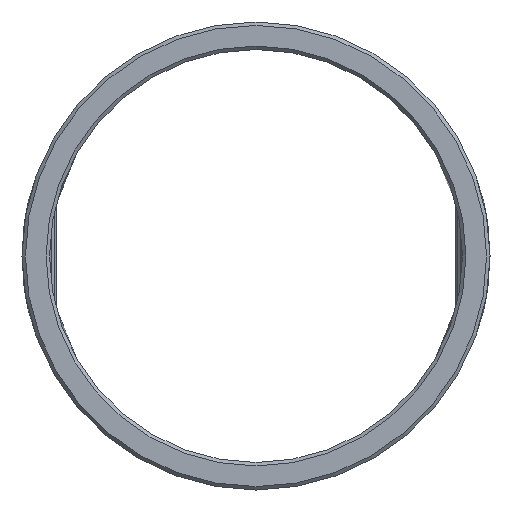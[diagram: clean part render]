
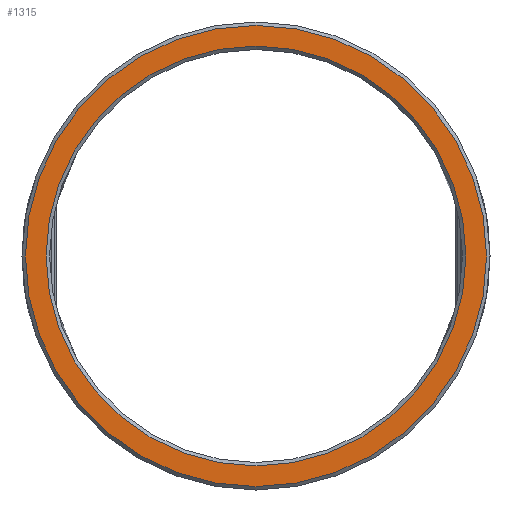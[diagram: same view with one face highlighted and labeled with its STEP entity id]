
A CAD part, left-side view. The second image highlights one B-rep face of the part: STEP entity #1315.
In plain terms, the highlighted planar face has unit normal (-1, 0, 0).
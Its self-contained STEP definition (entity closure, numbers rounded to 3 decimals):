
#1284=CARTESIAN_POINT('',(-10.875,6.1,0.));
#1285=VERTEX_POINT('',#1284);
#1286=CARTESIAN_POINT('',(-10.875,0.0,0.0));
#1287=DIRECTION('',(-1.0,0.0,0.0));
#1288=DIRECTION('',(0.0,-1.0,0.0));
#1289=AXIS2_PLACEMENT_3D('',#1286,#1287,#1288);
#1290=CIRCLE('',#1289,6.1);
#1291=EDGE_CURVE('',#1285,#1285,#1290,.T.);
#1296=CARTESIAN_POINT('',(-10.875,6.4,0.0));
#1297=DIRECTION('',(-1.0,0.0,0.0));
#1298=DIRECTION('',(0.0,0.0,1.0));
#1299=AXIS2_PLACEMENT_3D('',#1296,#1297,#1298);
#1300=PLANE('',#1299);
#1301=CARTESIAN_POINT('',(-10.875,6.7,0.));
#1302=VERTEX_POINT('',#1301);
#1303=CARTESIAN_POINT('',(-10.875,0.0,0.0));
#1304=DIRECTION('',(1.0,0.0,0.0));
#1305=DIRECTION('',(0.0,-1.0,0.0));
#1306=AXIS2_PLACEMENT_3D('',#1303,#1304,#1305);
#1307=CIRCLE('',#1306,6.7);
#1308=EDGE_CURVE('',#1302,#1302,#1307,.T.);
#1309=ORIENTED_EDGE('',*,*,#1308,.F.);
#1310=EDGE_LOOP('',(#1309));
#1311=FACE_OUTER_BOUND('',#1310,.T.);
#1312=ORIENTED_EDGE('',*,*,#1291,.F.);
#1313=EDGE_LOOP('',(#1312));
#1314=FACE_BOUND('',#1313,.T.);
#1315=ADVANCED_FACE('',(#1311,#1314),#1300,.T.);
